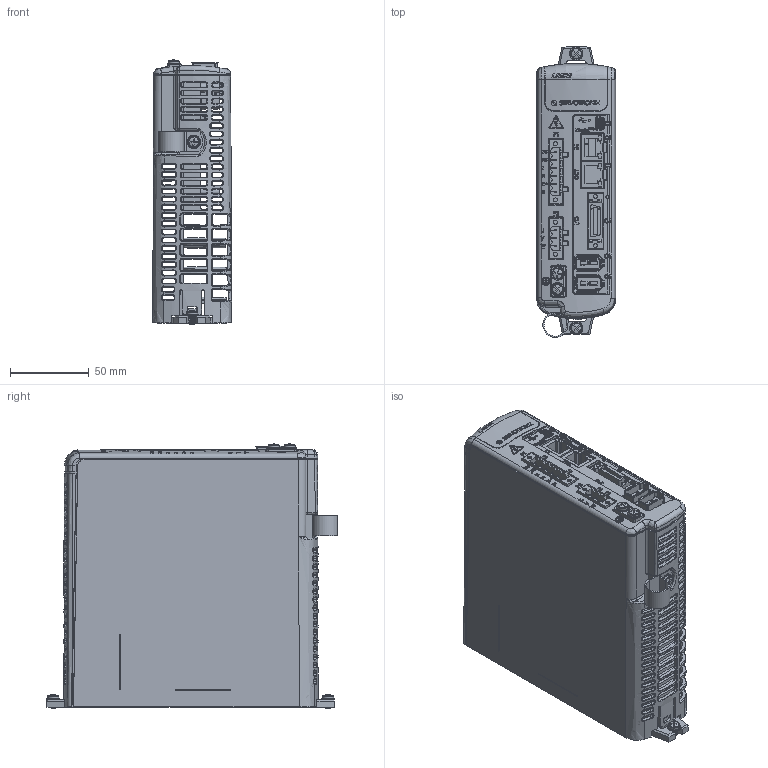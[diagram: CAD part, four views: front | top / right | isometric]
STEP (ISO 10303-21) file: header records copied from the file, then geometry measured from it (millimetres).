
FILE_DESCRIPTION (( 'STEP AP214' ), '1' );
FILE_NAME ('LDHD2(3A).STEP', '2020-04-12T06:10:49', ( '' ), ( '' ), 'SwSTEP 2.0', 'SolidWorks 2016', '' );
FILE_SCHEMA (( 'AUTOMOTIVE_DESIGN' ));
Length unit declared in the file: millimetre
Products named in the file (1): LDHD2(3A)
Bounding box: 50.26 x 184.61 x 167.6 mm (x, y, z)
Surface area: 201617.5 mm2 (no closed solid volume)
Topology: 0 solids, 84 shells, 3492 faces, 13048 edges, 9196 vertices
Faces by surface type: plane 1425, bspline 1207, cone 413, cylinder 409, torus 38
Full cylindrical faces by diameter (mm): 1.016 x1, 1.372 x2, 2.6 x6, 4 x5, 4.4 x2, 5.24 x1, 7 x5
Entity records: 221254 total; most frequent: CARTESIAN_POINT 89995, ORIENTED_EDGE 20563, DIRECTION 14517, EDGE_CURVE 12964, VERTEX_POINT 9169, LINE 5395, VECTOR 5395, AXIS2_PLACEMENT_3D 4561
